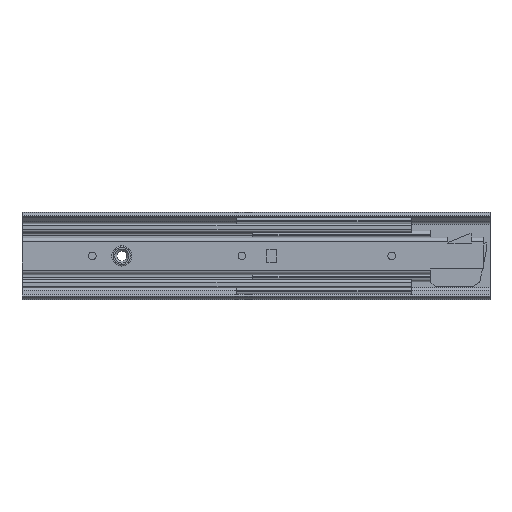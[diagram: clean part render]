
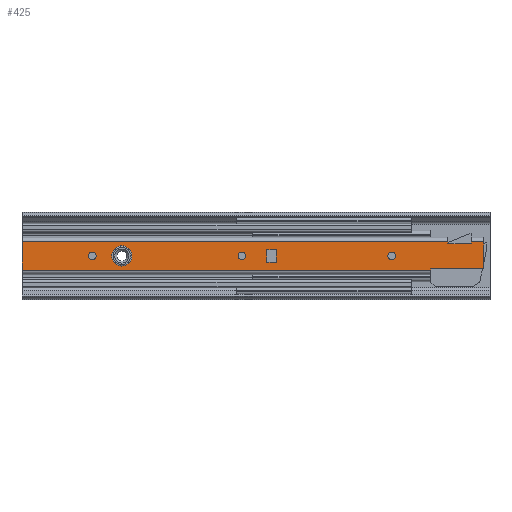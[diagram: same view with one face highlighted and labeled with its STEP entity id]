
A CAD part, top view. The second image highlights one B-rep face of the part: STEP entity #425.
In plain terms, the highlighted planar face has unit normal (0, 0, 1).
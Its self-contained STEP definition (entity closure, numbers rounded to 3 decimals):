
#425 = ADVANCED_FACE( '', ( #993, #994, #995, #996, #997, #998 ), #999, .F. );
#993 = FACE_BOUND( '', #1676, .T. );
#994 = FACE_BOUND( '', #1677, .T. );
#995 = FACE_BOUND( '', #1678, .T. );
#996 = FACE_BOUND( '', #1679, .T. );
#997 = FACE_BOUND( '', #1680, .T. );
#998 = FACE_OUTER_BOUND( '', #1681, .T. );
#999 = PLANE( '', #1682 );
#1676 = EDGE_LOOP( '', ( #3812 ) );
#1677 = EDGE_LOOP( '', ( #3813, #3814, #3815, #3816 ) );
#1678 = EDGE_LOOP( '', ( #3817 ) );
#1679 = EDGE_LOOP( '', ( #3818 ) );
#1680 = EDGE_LOOP( '', ( #3819 ) );
#1681 = EDGE_LOOP( '', ( #3820, #3821, #3822, #3823, #3824, #3825, #3826, #3827, #3828, #3829 ) );
#1682 = AXIS2_PLACEMENT_3D( '', #3830, #3831, #3832 );
#3812 = ORIENTED_EDGE( '', *, *, #5299, .F. );
#3813 = ORIENTED_EDGE( '', *, *, #5300, .F. );
#3814 = ORIENTED_EDGE( '', *, *, #5301, .F. );
#3815 = ORIENTED_EDGE( '', *, *, #5302, .F. );
#3816 = ORIENTED_EDGE( '', *, *, #5303, .F. );
#3817 = ORIENTED_EDGE( '', *, *, #5304, .F. );
#3818 = ORIENTED_EDGE( '', *, *, #5305, .F. );
#3819 = ORIENTED_EDGE( '', *, *, #5306, .F. );
#3820 = ORIENTED_EDGE( '', *, *, #5307, .F. );
#3821 = ORIENTED_EDGE( '', *, *, #5308, .F. );
#3822 = ORIENTED_EDGE( '', *, *, #5309, .F. );
#3823 = ORIENTED_EDGE( '', *, *, #5310, .T. );
#3824 = ORIENTED_EDGE( '', *, *, #5311, .F. );
#3825 = ORIENTED_EDGE( '', *, *, #5312, .F. );
#3826 = ORIENTED_EDGE( '', *, *, #5313, .F. );
#3827 = ORIENTED_EDGE( '', *, *, #5314, .T. );
#3828 = ORIENTED_EDGE( '', *, *, #5315, .T. );
#3829 = ORIENTED_EDGE( '', *, *, #5316, .F. );
#3830 = CARTESIAN_POINT( '', ( 296., 9., 0. ) );
#3831 = DIRECTION( '', ( 0., 0., -1. ) );
#3832 = DIRECTION( '', ( -1., 0., 0. ) );
#5299 = EDGE_CURVE( '', #6632, #6632, #6633, .T. );
#5300 = EDGE_CURVE( '', #6634, #6635, #6636, .T. );
#5301 = EDGE_CURVE( '', #6637, #6634, #6638, .T. );
#5302 = EDGE_CURVE( '', #6639, #6637, #6640, .T. );
#5303 = EDGE_CURVE( '', #6635, #6639, #6641, .T. );
#5304 = EDGE_CURVE( '', #6642, #6642, #6643, .T. );
#5305 = EDGE_CURVE( '', #6644, #6644, #6645, .T. );
#5306 = EDGE_CURVE( '', #6646, #6646, #6647, .T. );
#5307 = EDGE_CURVE( '', #6648, #6649, #6650, .T. );
#5308 = EDGE_CURVE( '', #6651, #6648, #6652, .T. );
#5309 = EDGE_CURVE( '', #6653, #6651, #6654, .T. );
#5310 = EDGE_CURVE( '', #6653, #6655, #6656, .T. );
#5311 = EDGE_CURVE( '', #6657, #6655, #6658, .T. );
#5312 = EDGE_CURVE( '', #6659, #6657, #6660, .T. );
#5313 = EDGE_CURVE( '', #6661, #6659, #6662, .T. );
#5314 = EDGE_CURVE( '', #6661, #6663, #6664, .T. );
#5315 = EDGE_CURVE( '', #6663, #6665, #6666, .T. );
#5316 = EDGE_CURVE( '', #6649, #6665, #6667, .T. );
#6632 = VERTEX_POINT( '', #8674 );
#6633 = CIRCLE( '', #8675, 2.5 );
#6634 = VERTEX_POINT( '', #8676 );
#6635 = VERTEX_POINT( '', #8677 );
#6636 = LINE( '', #8678, #8679 );
#6637 = VERTEX_POINT( '', #8680 );
#6638 = LINE( '', #8681, #8682 );
#6639 = VERTEX_POINT( '', #8683 );
#6640 = LINE( '', #8684, #8685 );
#6641 = LINE( '', #8686, #8687 );
#6642 = VERTEX_POINT( '', #8688 );
#6643 = CIRCLE( '', #8689, 2.5 );
#6644 = VERTEX_POINT( '', #8690 );
#6645 = CIRCLE( '', #8691, 6.5 );
#6646 = VERTEX_POINT( '', #8692 );
#6647 = CIRCLE( '', #8693, 2.5 );
#6648 = VERTEX_POINT( '', #8694 );
#6649 = VERTEX_POINT( '', #8695 );
#6650 = LINE( '', #8696, #8697 );
#6651 = VERTEX_POINT( '', #8698 );
#6652 = LINE( '', #8699, #8700 );
#6653 = VERTEX_POINT( '', #8701 );
#6654 = LINE( '', #8702, #8703 );
#6655 = VERTEX_POINT( '', #8704 );
#6656 = LINE( '', #8705, #8706 );
#6657 = VERTEX_POINT( '', #8707 );
#6658 = LINE( '', #8708, #8709 );
#6659 = VERTEX_POINT( '', #8710 );
#6660 = LINE( '', #8711, #8712 );
#6661 = VERTEX_POINT( '', #8713 );
#6662 = LINE( '', #8714, #8715 );
#6663 = VERTEX_POINT( '', #8716 );
#6664 = LINE( '', #8717, #8718 );
#6665 = VERTEX_POINT( '', #8719 );
#6666 = LINE( '', #8720, #8721 );
#6667 = LINE( '', #8722, #8723 );
#8674 = CARTESIAN_POINT( '', ( 239.5, 0., 0. ) );
#8675 = AXIS2_PLACEMENT_3D( '', #10325, #10326, #10327 );
#8676 = CARTESIAN_POINT( '', ( 163., -4., 0. ) );
#8677 = CARTESIAN_POINT( '', ( 163., 4., 0. ) );
#8678 = CARTESIAN_POINT( '', ( 163., -4., 0. ) );
#8679 = VECTOR( '', #10328, 1000. );
#8680 = CARTESIAN_POINT( '', ( 157., -4., 0. ) );
#8681 = CARTESIAN_POINT( '', ( 157., -4., 0. ) );
#8682 = VECTOR( '', #10329, 1000. );
#8683 = CARTESIAN_POINT( '', ( 157., 4., 0. ) );
#8684 = CARTESIAN_POINT( '', ( 157., 4., 0. ) );
#8685 = VECTOR( '', #10330, 1000. );
#8686 = CARTESIAN_POINT( '', ( 163., 4., 0. ) );
#8687 = VECTOR( '', #10331, 1000. );
#8688 = CARTESIAN_POINT( '', ( 143.5, 0., 0. ) );
#8689 = AXIS2_PLACEMENT_3D( '', #10332, #10333, #10334 );
#8690 = CARTESIAN_POINT( '', ( 70.5, 0., 0. ) );
#8691 = AXIS2_PLACEMENT_3D( '', #10335, #10336, #10337 );
#8692 = CARTESIAN_POINT( '', ( 47.5, 0., 0. ) );
#8693 = AXIS2_PLACEMENT_3D( '', #10338, #10339, #10340 );
#8694 = CARTESIAN_POINT( '', ( 262., -8., 0. ) );
#8695 = CARTESIAN_POINT( '', ( 262., -9., 0. ) );
#8696 = CARTESIAN_POINT( '', ( 262., -8., 0. ) );
#8697 = VECTOR( '', #10341, 1000. );
#8698 = CARTESIAN_POINT( '', ( 296., -8., 0. ) );
#8699 = CARTESIAN_POINT( '', ( 296., -8., 0. ) );
#8700 = VECTOR( '', #10342, 1000. );
#8701 = CARTESIAN_POINT( '', ( 296., 9., 0. ) );
#8702 = CARTESIAN_POINT( '', ( 296., 9., 0. ) );
#8703 = VECTOR( '', #10343, 1000. );
#8704 = CARTESIAN_POINT( '', ( 288., 9., 0. ) );
#8705 = CARTESIAN_POINT( '', ( 296., 9., 0. ) );
#8706 = VECTOR( '', #10344, 1000. );
#8707 = CARTESIAN_POINT( '', ( 288., 8., 0. ) );
#8708 = CARTESIAN_POINT( '', ( 288., 8., 0. ) );
#8709 = VECTOR( '', #10345, 1000. );
#8710 = CARTESIAN_POINT( '', ( 273., 8., 0. ) );
#8711 = CARTESIAN_POINT( '', ( 273., 8., 0. ) );
#8712 = VECTOR( '', #10346, 1000. );
#8713 = CARTESIAN_POINT( '', ( 273., 9., 0. ) );
#8714 = CARTESIAN_POINT( '', ( 273., 18., 0. ) );
#8715 = VECTOR( '', #10347, 1000. );
#8716 = CARTESIAN_POINT( '', ( 0., 9., 0. ) );
#8717 = CARTESIAN_POINT( '', ( 296., 9., 0. ) );
#8718 = VECTOR( '', #10348, 1000. );
#8719 = CARTESIAN_POINT( '', ( 0., -9., 0. ) );
#8720 = CARTESIAN_POINT( '', ( 0., 9., 0. ) );
#8721 = VECTOR( '', #10349, 1000. );
#8722 = CARTESIAN_POINT( '', ( 296., -9., 0. ) );
#8723 = VECTOR( '', #10350, 1000. );
#10325 = CARTESIAN_POINT( '', ( 237., 0., 0. ) );
#10326 = DIRECTION( '', ( 0., 0., 1. ) );
#10327 = DIRECTION( '', ( 1., 0., 0. ) );
#10328 = DIRECTION( '', ( 0., 1., 0. ) );
#10329 = DIRECTION( '', ( 1., 0., 0. ) );
#10330 = DIRECTION( '', ( 0., -1., 0. ) );
#10331 = DIRECTION( '', ( -1., 0., 0. ) );
#10332 = CARTESIAN_POINT( '', ( 141., 0., 0. ) );
#10333 = DIRECTION( '', ( 0., 0., 1. ) );
#10334 = DIRECTION( '', ( 1., 0., 0. ) );
#10335 = CARTESIAN_POINT( '', ( 64., 0., 0. ) );
#10336 = DIRECTION( '', ( 0., 0., 1. ) );
#10337 = DIRECTION( '', ( 1., 0., 0. ) );
#10338 = CARTESIAN_POINT( '', ( 45., 0., 0. ) );
#10339 = DIRECTION( '', ( 0., 0., 1. ) );
#10340 = DIRECTION( '', ( 1., 0., 0. ) );
#10341 = DIRECTION( '', ( 0., -1., 0. ) );
#10342 = DIRECTION( '', ( -1., 0., 0. ) );
#10343 = DIRECTION( '', ( 0., -1., 0. ) );
#10344 = DIRECTION( '', ( -1., 0., 0. ) );
#10345 = DIRECTION( '', ( 0., 1., 0. ) );
#10346 = DIRECTION( '', ( 1., 0., 0. ) );
#10347 = DIRECTION( '', ( 0., -1., 0. ) );
#10348 = DIRECTION( '', ( -1., 0., 0. ) );
#10349 = DIRECTION( '', ( 0., -1., 0. ) );
#10350 = DIRECTION( '', ( -1., 0., 0. ) );
